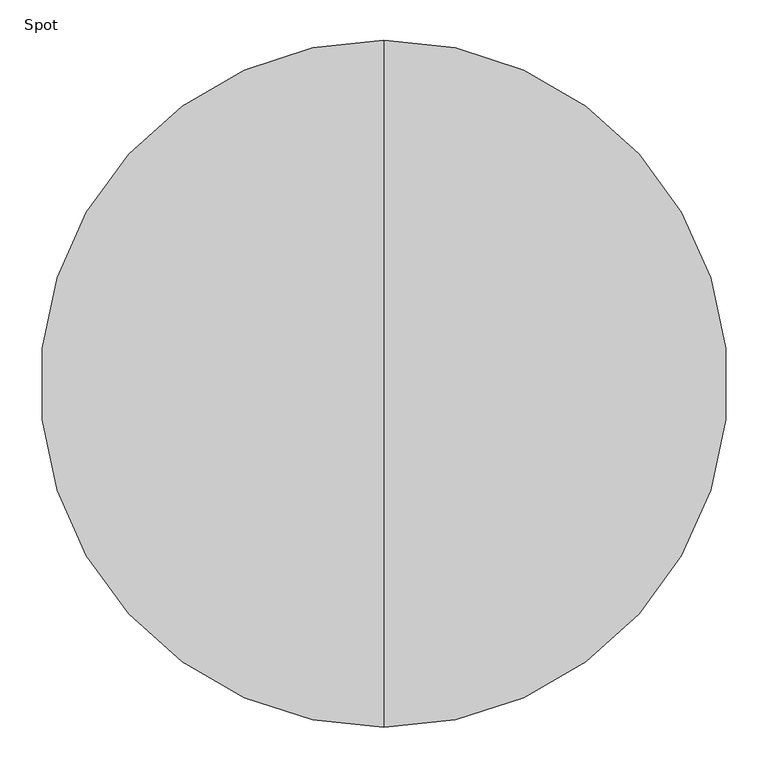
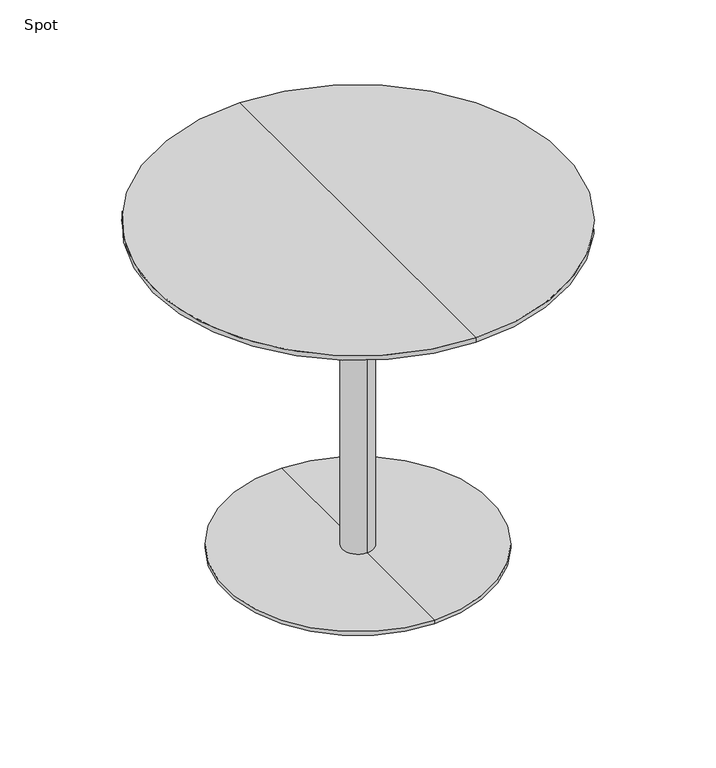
"""IFC4 building model written with IfcOpenShell, lengths in millimetres: furniture geometry, Spot : ø85x72."""

from ifc_helpers import new_model, si_unit, frame, origin, place, context, project, spatial, polyline, circle_curve, source, transform, mapped, element, save
from ifc_brep_helpers import plane_surface, cylinder_surface, revolved_surface, advanced_brep


def spot_397b3017(model_context):
    return source(origin(), model_context, "Body", "AdvancedBrep", [
        advanced_brep(
        [(0.0, 425.0, 720.0), (0.0, -425.0, 720.0), (0.0, 0.0, 720.0), (0.0, 425.0, 710.25), (0.0, -425.0, 710.25), (0.0, 379.2823776, 698.0), (0.0, -379.2823776, 698.0), (0.0, 0.0, 698.0)],
        [
            (0, 1, circle_curve(frame((0.0, 0.0, 720.0), z_axis=(0.0, 0.0, 1.0), x_axis=(0.0, -1.0, 0.0)), 425.0)),
            (1, 2),
            (2, 0),
            (1, 0, circle_curve(frame((0.0, 0.0, 720.0), z_axis=(0.0, 0.0, 1.0), x_axis=(0.0, -1.0, 0.0)), 425.0)),
            (3, 4, circle_curve(frame((0.0, 0.0, 710.25), z_axis=(0.0, 0.0, 1.0), x_axis=(0.0, -1.0, 0.0)), 425.0)),
            (4, 1),
            (0, 3),
            (4, 3, circle_curve(frame((0.0, 0.0, 710.25), z_axis=(0.0, 0.0, 1.0), x_axis=(0.0, -1.0, 0.0)), 425.0)),
            (5, 6, circle_curve(frame((0.0, 0.0, 698.0), z_axis=(0.0, 0.0, 1.0), x_axis=(0.0, -1.0, 0.0)), 379.2823776)),
            (6, 4),
            (3, 5),
            (6, 5, circle_curve(frame((0.0, 0.0, 698.0), z_axis=(0.0, 0.0, 1.0), x_axis=(0.0, -1.0, 0.0)), 379.2823776)),
            (7, 6),
            (5, 7),
        ],
        [
            plane_surface(frame((0.0, 0.0, 720.0), z_axis=(0.0, 0.0, 1.0), x_axis=(0.0, -1.0, 0.0))),
            cylinder_surface(frame((0.0, 0.0, 800.0), z_axis=(0.0, 0.0, -1.0), x_axis=(0.0, -1.0, 0.0)), 425.0),
            revolved_surface(polyline([(0.0, -425.0, 710.25), (0.0, -379.2823776, 698.0)]), (0.0, 0.0, 800.0), (0.0, 0.0, -1.0)),
            plane_surface(frame((0.0, 0.0, 698.0), z_axis=(0.0, 0.0, -1.0), x_axis=(0.0, -1.0, 0.0))),
        ],
        [
            (0, [[1, 2, 3]]),
            (0, [[4, -3, -2]]),
            (1, [[5, 6, -1, 7]]),
            (1, [[8, -7, -4, -6]]),
            (2, [[9, 10, -5, 11]]),
            (2, [[12, -11, -8, -10]]),
            (3, [[13, -9, 14]]),
            (3, [[-14, -12, -13]]),
        ],
    ),
        advanced_brep(
        [(0.0, 32.0, 10.0), (0.0, -32.0, 10.0), (0.0, -32.0, 667.406916), (0.0, 32.0, 667.406916), (0.0, 275.0, 10.0), (0.0, -275.0, 10.0), (0.0, 275.0, 2.0), (0.0, -275.0, 2.0), (0.0, 0.0, 2.0), (0.0, 150.0, 698.0), (0.0, -150.0, 698.0), (0.0, 0.0, 698.0), (0.0, 150.0, 686.7213673), (0.0, -150.0, 686.7213673)],
        [
            (0, 1, circle_curve(frame((0.0, 0.0, 10.0), z_axis=(0.0, 0.0, 1.0), x_axis=(0.0, -1.0, 0.0)), 32.0)),
            (1, 2),
            (2, 3, circle_curve(frame((0.0, 0.0, 667.406916), z_axis=(0.0, 0.0, -1.0), x_axis=(0.0, -1.0, 0.0)), 32.0)),
            (3, 0),
            (1, 0, circle_curve(frame((0.0, 0.0, 10.0), z_axis=(0.0, 0.0, 1.0), x_axis=(0.0, -1.0, 0.0)), 32.0)),
            (3, 2, circle_curve(frame((0.0, 0.0, 667.406916), z_axis=(0.0, 0.0, -1.0), x_axis=(0.0, -1.0, 0.0)), 32.0)),
            (4, 5, circle_curve(frame((0.0, 0.0, 10.0), z_axis=(0.0, 0.0, 1.0), x_axis=(0.0, -1.0, 0.0)), 275.0)),
            (5, 1),
            (0, 4),
            (5, 4, circle_curve(frame((0.0, 0.0, 10.0), z_axis=(0.0, 0.0, 1.0), x_axis=(0.0, -1.0, 0.0)), 275.0)),
            (6, 7, circle_curve(frame((0.0, 0.0, 2.0), z_axis=(0.0, 0.0, 1.0), x_axis=(0.0, -1.0, 0.0)), 275.0)),
            (7, 5),
            (4, 6),
            (7, 6, circle_curve(frame((0.0, 0.0, 2.0), z_axis=(0.0, 0.0, 1.0), x_axis=(0.0, -1.0, 0.0)), 275.0)),
            (8, 7),
            (6, 8),
            (9, 10, circle_curve(frame((0.0, 0.0, 698.0), z_axis=(0.0, 0.0, 1.0), x_axis=(0.0, -1.0, 0.0)), 150.0)),
            (10, 11),
            (11, 9),
            (10, 9, circle_curve(frame((0.0, 0.0, 698.0), z_axis=(0.0, 0.0, 1.0), x_axis=(0.0, -1.0, 0.0)), 150.0)),
            (12, 13, circle_curve(frame((0.0, 0.0, 686.7213673), z_axis=(0.0, 0.0, 1.0), x_axis=(0.0, -1.0, 0.0)), 150.0)),
            (13, 10),
            (9, 12),
            (13, 12, circle_curve(frame((0.0, 0.0, 686.7213673), z_axis=(0.0, 0.0, 1.0), x_axis=(0.0, -1.0, 0.0)), 150.0)),
            (2, 13),
            (12, 3),
        ],
        [
            cylinder_surface(frame((0.0, 0.0, 1060.0), z_axis=(0.0, 0.0, -1.0), x_axis=(0.0, -1.0, 0.0)), 32.0),
            plane_surface(frame((0.0, 0.0, 10.0), z_axis=(0.0, 0.0, 1.0), x_axis=(0.0, -1.0, 0.0))),
            cylinder_surface(frame((0.0, 0.0, 1060.0), z_axis=(0.0, 0.0, -1.0), x_axis=(0.0, -1.0, 0.0)), 275.0),
            plane_surface(frame((0.0, 0.0, 2.0), z_axis=(0.0, 0.0, -1.0), x_axis=(0.0, -1.0, 0.0))),
            plane_surface(frame((0.0, 0.0, 698.0), z_axis=(0.0, 0.0, 1.0), x_axis=(0.0, -1.0, 0.0))),
            cylinder_surface(frame((0.0, 0.0, 1060.0), z_axis=(0.0, 0.0, -1.0), x_axis=(0.0, -1.0, 0.0)), 150.0),
            revolved_surface(polyline([(0.0, -150.0, 686.7213673), (0.0, -32.0, 667.406916)]), (0.0, 0.0, 1060.0), (0.0, 0.0, -1.0)),
        ],
        [
            (0, [[1, 2, 3, 4]]),
            (0, [[5, -4, 6, -2]]),
            (1, [[7, 8, -1, 9]]),
            (1, [[10, -9, -5, -8]]),
            (2, [[11, 12, -7, 13]]),
            (2, [[14, -13, -10, -12]]),
            (3, [[15, -11, 16]]),
            (3, [[-16, -14, -15]]),
            (4, [[17, 18, 19]]),
            (4, [[20, -19, -18]]),
            (5, [[21, 22, -17, 23]]),
            (5, [[24, -23, -20, -22]]),
            (6, [[-3, 25, -21, 26]]),
            (6, [[-6, -26, -24, -25]]),
        ],
    ),
    ])


if __name__ == "__main__":
    model = new_model("IFC4")
    model_context = context("Model", 3, world=origin())
    ifc_project = project(units=[si_unit("LENGTHUNIT", "METRE", prefix="MILLI")], contexts=[model_context])
    site = spatial("IfcSite", under=ifc_project)
    building = spatial("IfcBuilding", under=site)
    placement = place(None, origin())
    spot_shape = spot_397b3017(model_context)
    element("IfcFurniture", 1, ObjectType="Spot : ø85x72", at=placement, inside=building, context=model_context, shape_type="MappedRepresentation", body=[
        mapped(spot_shape, transform((0.0, 0.0, 0.0), x_axis=(1.0, 0.0, 0.0), y_axis=(0.0, 1.0, 0.0), z_axis=(0.0, 0.0, 1.0))),
    ])
    save(model, "model.ifc")
